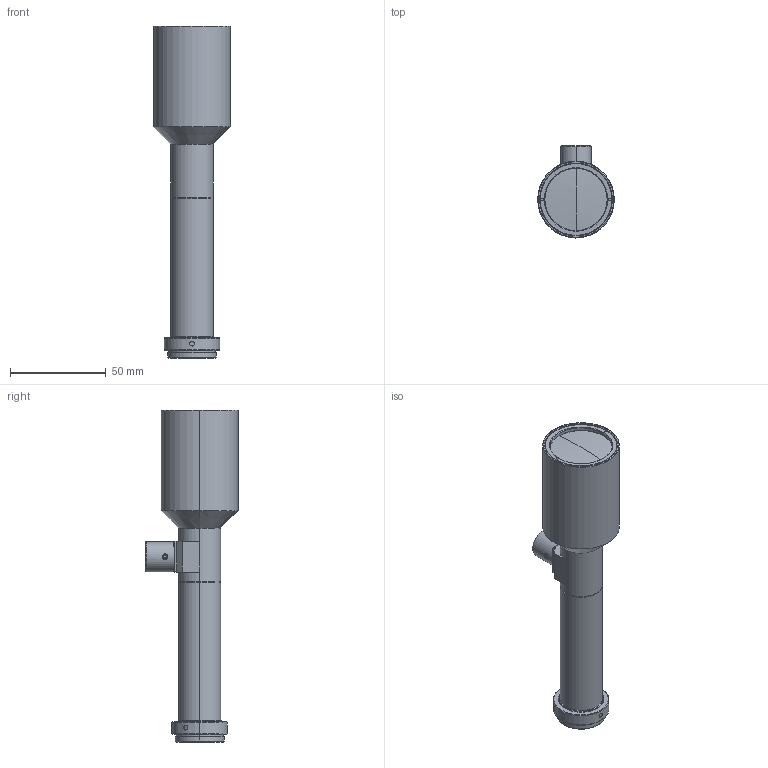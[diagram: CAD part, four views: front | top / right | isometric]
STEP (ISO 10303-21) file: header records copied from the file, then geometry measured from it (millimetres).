
FILE_DESCRIPTION (( 'STEP AP203' ), '1' );
FILE_NAME ('MML2-HR220D.STEP', '2020-09-15T02:05:53', ( '' ), ( '' ), 'SwSTEP 2.0', 'SolidWorks 2017', '' );
FILE_SCHEMA (( 'CONFIG_CONTROL_DESIGN' ));
Length unit declared in the file: millimetre
Products named in the file (1): MML2-HR220D
Bounding box: 40 x 48 x 173.03 mm (x, y, z)
Volume: 101771.6 mm3; surface area: 23691.4 mm2
Topology: 1 solids, 1 shells, 263 faces, 654 edges, 418 vertices
Faces by surface type: plane 106, cone 78, cylinder 59, sphere 12, torus 8
Entity records: 8486 total; most frequent: CARTESIAN_POINT 2006, DIRECTION 1414, ORIENTED_EDGE 1308, EDGE_CURVE 654, AXIS2_PLACEMENT_3D 569, VERTEX_POINT 418, CIRCLE 305, EDGE_LOOP 290
